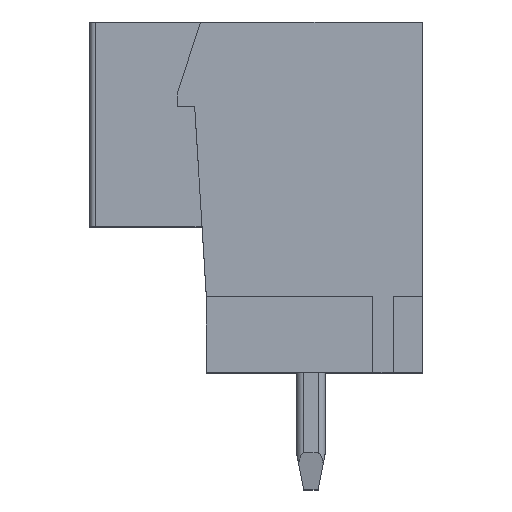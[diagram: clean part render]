
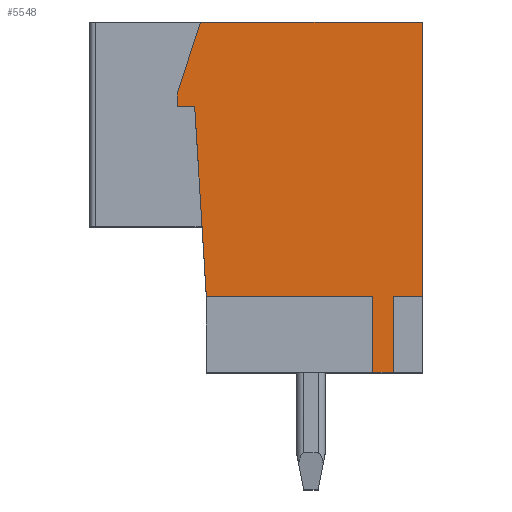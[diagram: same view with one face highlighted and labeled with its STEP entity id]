
A CAD part, top view. The second image highlights one B-rep face of the part: STEP entity #5548.
In plain terms, the highlighted planar face has unit normal (0, 0, 1).
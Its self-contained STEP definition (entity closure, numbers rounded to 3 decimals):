
#261=DIRECTION('',(1.,0.,0.));
#262=VECTOR('',#261,5.7);
#263=CARTESIAN_POINT('',(4.,6.6,-21.4));
#264=LINE('',#263,#262);
#956=DIRECTION('',(0.,-1.,0.));
#957=VECTOR('',#956,2.6);
#958=CARTESIAN_POINT('',(9.7,6.6,-21.4));
#959=LINE('',#958,#957);
#976=DIRECTION('',(-0.061,0.998,0.));
#977=VECTOR('',#976,6.512);
#978=CARTESIAN_POINT('',(4.,6.6,-21.4));
#979=LINE('',#978,#977);
#980=DIRECTION('',(-1.,0.,0.));
#981=VECTOR('',#980,0.6);
#982=CARTESIAN_POINT('',(3.6,13.1,-21.4));
#983=LINE('',#982,#981);
#984=DIRECTION('',(0.,1.,0.));
#985=VECTOR('',#984,0.438);
#986=CARTESIAN_POINT('',(3.,13.1,-21.4));
#987=LINE('',#986,#985);
#988=DIRECTION('',(0.309,0.951,0.));
#989=VECTOR('',#988,2.589);
#990=CARTESIAN_POINT('',(3.,13.538,-21.4));
#991=LINE('',#990,#989);
#992=DIRECTION('',(1.,0.,0.));
#993=VECTOR('',#992,7.6);
#994=CARTESIAN_POINT('',(3.8,16.,-21.4));
#995=LINE('',#994,#993);
#996=DIRECTION('',(0.,-1.,0.));
#997=VECTOR('',#996,9.4);
#998=CARTESIAN_POINT('',(11.4,16.,-21.4));
#999=LINE('',#998,#997);
#1000=DIRECTION('',(0.,-1.,0.));
#1001=VECTOR('',#1000,2.6);
#1002=CARTESIAN_POINT('',(10.4,6.6,-21.4));
#1003=LINE('',#1002,#1001);
#1004=DIRECTION('',(-1.,0.,0.));
#1005=VECTOR('',#1004,0.7);
#1006=CARTESIAN_POINT('',(10.4,4.,-21.4));
#1007=LINE('',#1006,#1005);
#3120=DIRECTION('',(1.,0.,0.));
#3121=VECTOR('',#3120,1.);
#3122=CARTESIAN_POINT('',(10.4,6.6,-21.4));
#3123=LINE('',#3122,#3121);
#3462=CARTESIAN_POINT('',(3.6,13.1,-21.4));
#3463=VERTEX_POINT('',#3462);
#3464=CARTESIAN_POINT('',(4.,6.6,-21.4));
#3465=VERTEX_POINT('',#3464);
#3514=CARTESIAN_POINT('',(11.4,16.,-21.4));
#3515=VERTEX_POINT('',#3514);
#3516=CARTESIAN_POINT('',(3.8,16.,-21.4));
#3517=VERTEX_POINT('',#3516);
#3624=CARTESIAN_POINT('',(11.4,6.6,-21.4));
#3625=VERTEX_POINT('',#3624);
#3730=CARTESIAN_POINT('',(10.4,6.6,-21.4));
#3731=CARTESIAN_POINT('',(10.4,4.,-21.4));
#3732=VERTEX_POINT('',#3730);
#3733=VERTEX_POINT('',#3731);
#3734=CARTESIAN_POINT('',(9.7,4.,-21.4));
#3735=VERTEX_POINT('',#3734);
#3736=CARTESIAN_POINT('',(3.,13.1,-21.4));
#3737=VERTEX_POINT('',#3736);
#3738=CARTESIAN_POINT('',(3.,13.538,-21.4));
#3739=VERTEX_POINT('',#3738);
#4257=CARTESIAN_POINT('',(9.7,6.6,-21.4));
#4259=VERTEX_POINT('',#4257);
#5525=CARTESIAN_POINT('',(7.7,10.,-21.4));
#5526=DIRECTION('',(0.,0.,1.));
#5527=DIRECTION('',(1.,0.,0.));
#5528=AXIS2_PLACEMENT_3D('',#5525,#5526,#5527);
#5529=PLANE('',#5528);
#5530=ORIENTED_EDGE('',*,*,#5502,.F.);
#5531=ORIENTED_EDGE('',*,*,#4576,.F.);
#5532=ORIENTED_EDGE('',*,*,#4641,.T.);
#5534=ORIENTED_EDGE('',*,*,#5533,.T.);
#5536=ORIENTED_EDGE('',*,*,#5535,.T.);
#5538=ORIENTED_EDGE('',*,*,#5537,.T.);
#5539=ORIENTED_EDGE('',*,*,#4738,.T.);
#5540=ORIENTED_EDGE('',*,*,#4860,.T.);
#5542=ORIENTED_EDGE('',*,*,#5541,.F.);
#5544=ORIENTED_EDGE('',*,*,#5543,.T.);
#5545=ORIENTED_EDGE('',*,*,#5324,.T.);
#5546=EDGE_LOOP('',(#5530,#5531,#5532,#5534,#5536,#5538,#5539,#5540,#5542,#5544,
#5545));
#5547=FACE_OUTER_BOUND('',#5546,.F.);
#5548=ADVANCED_FACE('',(#5547),#5529,.T.);
#4576=EDGE_CURVE('',#3465,#4259,#264,.T.);
#4641=EDGE_CURVE('',#3465,#3463,#979,.T.);
#4738=EDGE_CURVE('',#3517,#3515,#995,.T.);
#4860=EDGE_CURVE('',#3515,#3625,#999,.T.);
#5324=EDGE_CURVE('',#3733,#3735,#1007,.T.);
#5502=EDGE_CURVE('',#4259,#3735,#959,.T.);
#5533=EDGE_CURVE('',#3463,#3737,#983,.T.);
#5535=EDGE_CURVE('',#3737,#3739,#987,.T.);
#5537=EDGE_CURVE('',#3739,#3517,#991,.T.);
#5541=EDGE_CURVE('',#3732,#3625,#3123,.T.);
#5543=EDGE_CURVE('',#3732,#3733,#1003,.T.);
